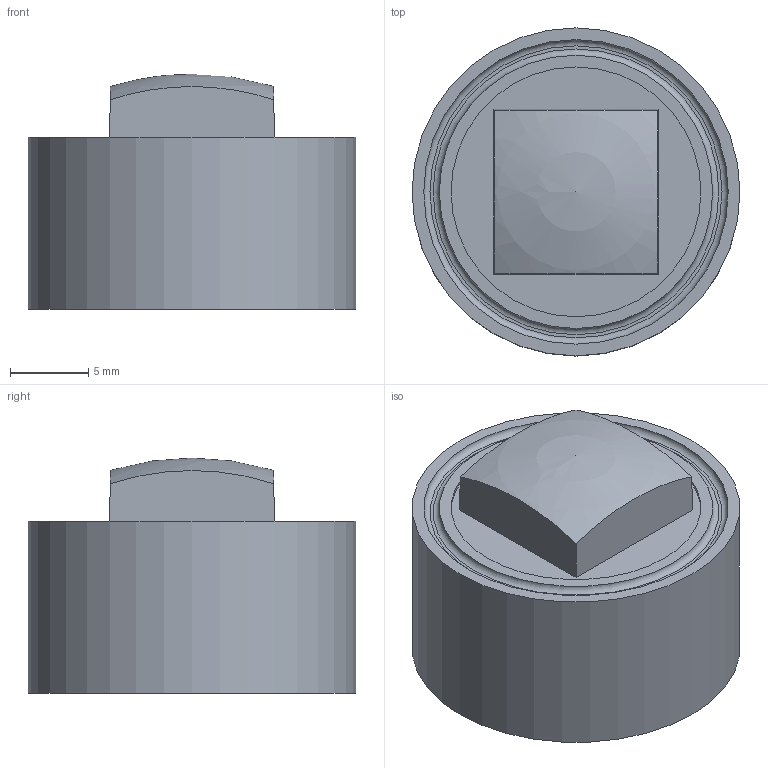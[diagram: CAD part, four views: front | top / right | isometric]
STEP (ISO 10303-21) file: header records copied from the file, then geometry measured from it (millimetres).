
FILE_DESCRIPTION(/* description */ (''),/* implementation_level */ '2;1');
FILE_NAME(/* name */ 'C:\Users\cgh.MEC\Desktop\Traceparts - 3D programserie\STEP filer\il-SMD\5GSH9xxxxxxx+1TS+1TW.stp',/* time_stamp */ '2016-03-01T09:38:43+01:00',/* author */ ('cgh'),/* organization */ (''),/* preprocessor_version */ 'ST-DEVELOPER v15.2',/* originating_system */ 'Autodesk Inventor 2014',/* authorisation */ '');
FILE_SCHEMA (('AUTOMOTIVE_DESIGN { 1 0 10303 214 3 1 1 }'));
Length unit declared in the file: centimetre
Products named in the file (1): cgh
Bounding box: 21 x 21 x 15.1 mm (x, y, z)
Volume: 1980.9 mm3; surface area: 3787.9 mm2
Topology: 1 solids, 1 shells, 1370 faces, 3856 edges, 2514 vertices
Faces by surface type: plane 858, cylinder 228, bspline 164, torus 67, cone 42, sphere 11
Full cylindrical faces by diameter (mm): 0.9 x1, 1 x3, 2.8 x1, 4.73 x1, 6.5 x1, 7.2 x1, 7.44 x1, 16 x1, 18 x1, 21 x1
Entity records: 48832 total; most frequent: CARTESIAN_POINT 13093, ORIENTED_EDGE 7630, DIRECTION 6462, EDGE_CURVE 3807, VERTEX_POINT 2500, LINE 2452, VECTOR 2452, AXIS2_PLACEMENT_3D 2005
